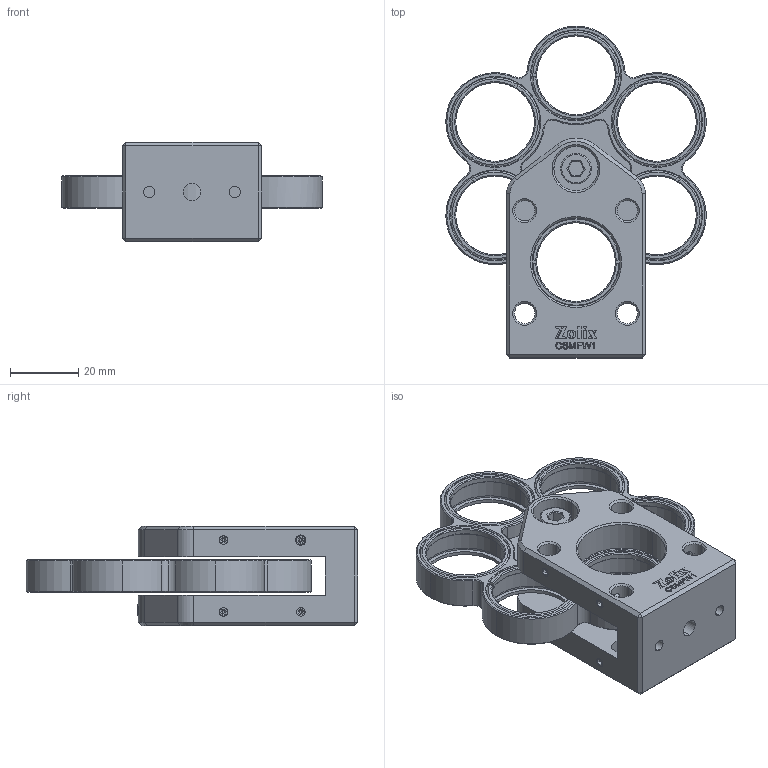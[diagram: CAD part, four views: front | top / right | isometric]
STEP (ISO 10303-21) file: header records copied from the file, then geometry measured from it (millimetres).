
FILE_DESCRIPTION (( 'STEP AP203' ), '1' );
FILE_NAME ('CSMFW1.STEP', '2024-06-19T06:29:47', ( '' ), ( '' ), 'SwSTEP 2.0', 'SolidWorks 2021', '' );
FILE_SCHEMA (( 'CONFIG_CONTROL_DESIGN' ));
Length unit declared in the file: millimetre
Products named in the file (1): CSMFW1
Bounding box: 76.08 x 97 x 29 mm (x, y, z)
Surface area: 28108.7 mm2 (no closed solid volume)
Topology: 0 solids, 36 shells, 498 faces, 1716 edges, 1263 vertices
Faces by surface type: plane 207, cone 157, cylinder 132, torus 2
Entity records: 20076 total; most frequent: CARTESIAN_POINT 5171, DIRECTION 3097, ORIENTED_EDGE 2721, EDGE_CURVE 1709, VERTEX_POINT 1263, AXIS2_PLACEMENT_3D 1037, VECTOR 1023, LINE 1023
